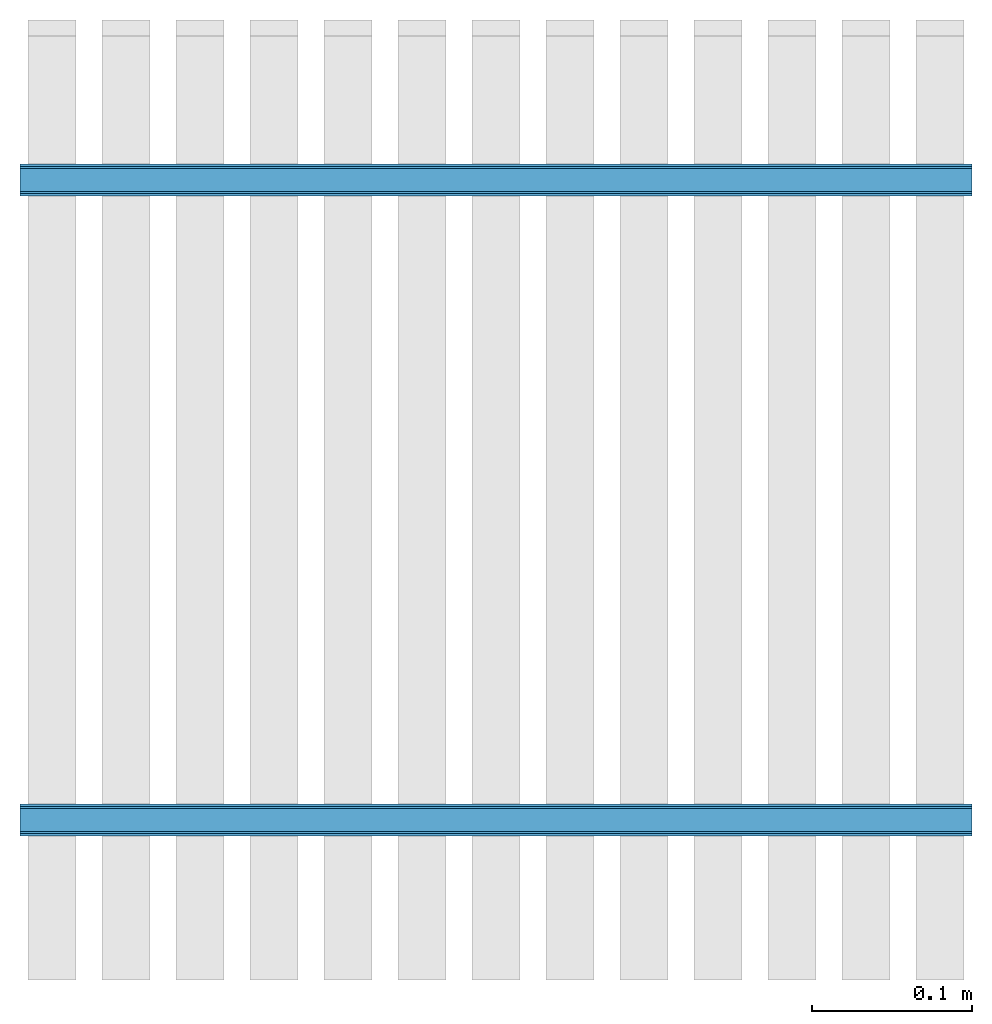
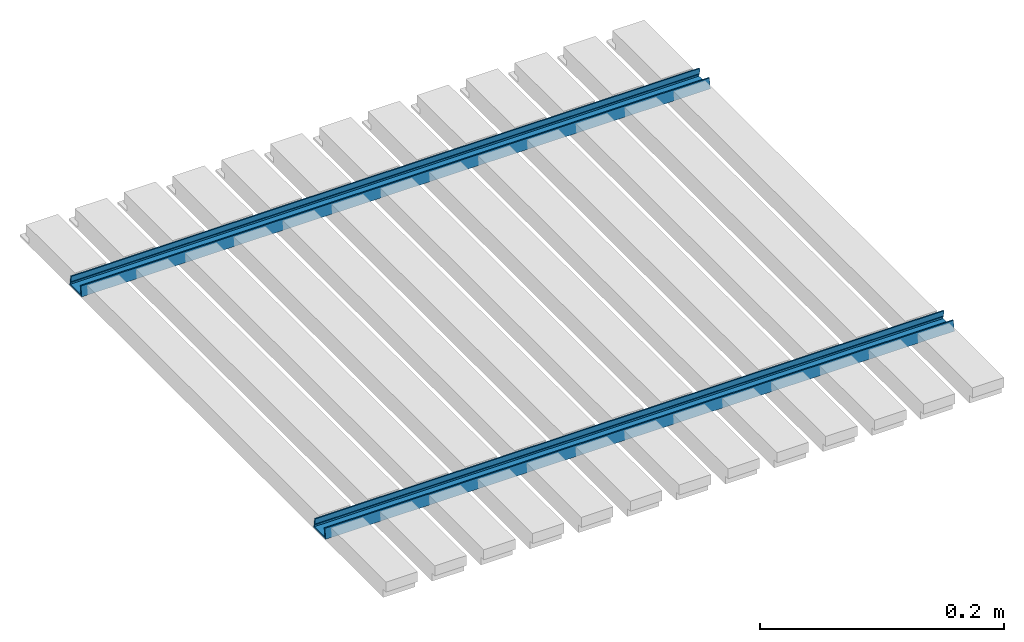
# One storey, part 1 of 2: 2 beams.
"""IFC2X3 building model written with IfcOpenShell, lengths in millimetres."""

from ifc_helpers import new_model, entity, si_unit, converted_unit, money_unit, direction, frame, origin_with_axes, place, context, subcontext, project, spatial, polyline, outline, extrude, material, type_object, element, save


model = new_model("IFC2X3")

# Units and contexts
model_context = context("Model", 3, precision=1e-05, world=origin_with_axes(), true_north=direction((0.0, 1.0)))
body_context = subcontext(model_context, "Body", "Model", "MODEL_VIEW")
ifc_project = project(units=[si_unit("LENGTHUNIT", "METRE", prefix="MILLI"), si_unit("AREAUNIT", "SQUARE_METRE"), si_unit("VOLUMEUNIT", "CUBIC_METRE"), converted_unit("PLANEANGLEUNIT", "DEGREE", entity("IfcPlaneAngleMeasure", 0.0174532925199), si_unit("PLANEANGLEUNIT", "RADIAN"), dimensions=[0, 0, 0, 0, 0, 0, 0]), si_unit("SOLIDANGLEUNIT", "STERADIAN"), money_unit("AUD"), si_unit("TIMEUNIT", "SECOND"), si_unit("MASSUNIT", "GRAM"), si_unit("THERMODYNAMICTEMPERATUREUNIT", "DEGREE_CELSIUS"), si_unit("LUMINOUSINTENSITYUNIT", "LUMEN")], contexts=[model_context])

# Site, building, storey
site_placement = place(None, origin_with_axes())
site = spatial("IfcSite", under=ifc_project, at=site_placement, Name="Site", CompositionType="ELEMENT")
building_placement = place(site_placement, origin_with_axes())
building = spatial("IfcBuilding", under=site, at=building_placement, Name="Building", CompositionType="ELEMENT")
storey_placement = place(building_placement, origin_with_axes())
storey = spatial("IfcBuildingStorey", under=building, at=storey_placement, Name="GROUND", CompositionType="ELEMENT", Elevation=0.0)

# Beams
ifc_material = material(Name="Brick - Internal Wall")
beam_type = type_object("IfcBeamType", Name="15MM GRID 20 x 10", PredefinedType="NOTDEFINED")
for number, where, z_axis, x_axis, name in (
    (1, (2.5, 500.0, 8.0), (0.0, 0.0, 1.0), (0.0, -1.0, 0.0), "BEAM-02"),
    (2, (2.5, 100.0, 8.0), (0.0, 0.0, 1.0), (0.0, -1.0, 0.0), "BEAM-02"),
):
    element("IfcBeam", number, at=place(storey_placement, frame(where, z_axis=z_axis, x_axis=x_axis)), inside=storey, type_object=beam_type, material=ifc_material, Name=name, ObjectType="15MM GRID 20 x 10", context=body_context, shape_type="SweptSolid", body=[
        extrude(outline(polyline([(10.0, 0.0), (8.5, 10.0), (7.26018347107, 10.0), (8.06268347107, 4.65), (7.26018347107, 3.5), (8.53518347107, 1.5), (-8.53518347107, 1.5), (-8.23518347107, 3.5), (-7.56832504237, 4.65), (-7.26018347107, 10.0), (-8.5, 10.0), (-10.0, 0.0), (10.0, 0.0)])), frame((0.0, 595.0, 0.0), z_axis=(0.0, -1.0, 0.0), x_axis=(1.0, 0.0, 0.0)), (0.0, 0.0, 1.0), 595.0),
    ])

save(model, "model.ifc")
